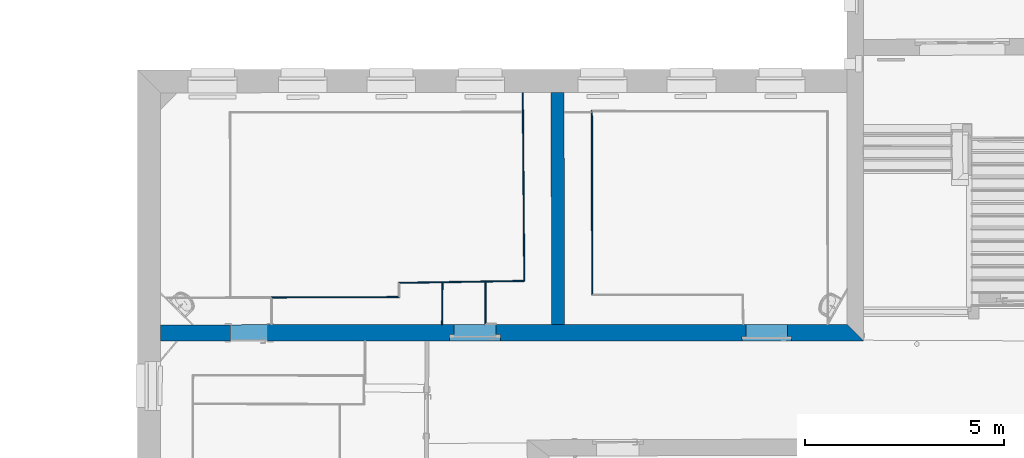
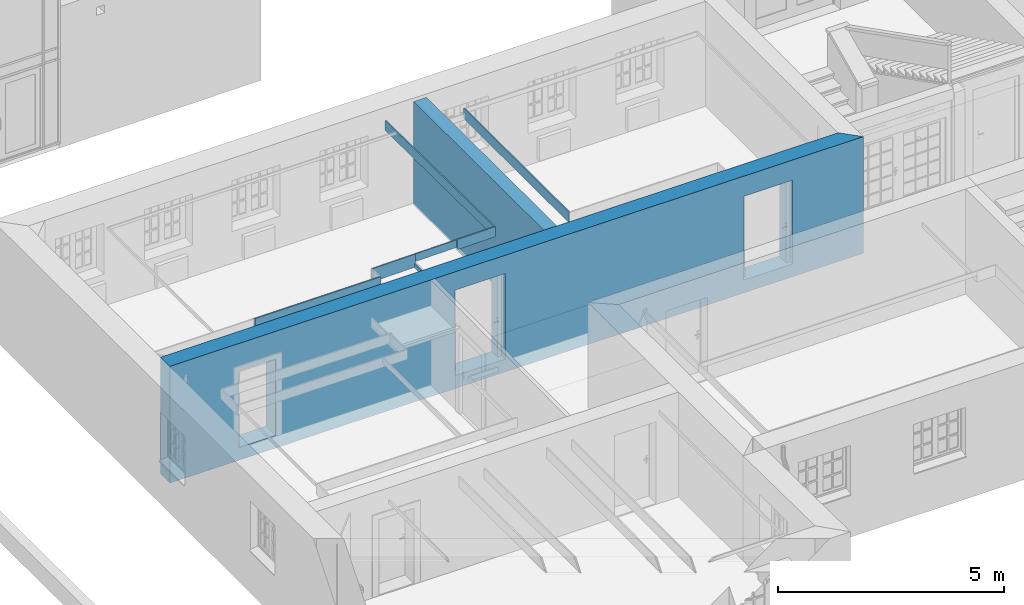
# One storey, part 24 of 196: 10 walls, 3 openings.
"""IFC2X3 building model written with IfcOpenShell, lengths in metres."""

from ifc_helpers import new_model, entity, si_unit, converted_unit, derived_unit, money_unit, direction, frame, origin_with_axes, origin_2d_with_axis, place, context, subcontext, project, spatial, polyline, rectangle, outline, extrude, material, layer, layer_set, layer_usage, type_object, element, save


model = new_model("IFC2X3")

# Units and contexts
model_context = context("Model", 3, precision=1e-05, world=origin_with_axes(), true_north=direction((0.0, 1.0)))
body_context = subcontext(model_context, "Body", "Model", "MODEL_VIEW")
ifc_project = project(units=[si_unit("LENGTHUNIT", "METRE"), si_unit("AREAUNIT", "SQUARE_METRE"), si_unit("VOLUMEUNIT", "CUBIC_METRE"), converted_unit("PLANEANGLEUNIT", "DEGREE", entity("IfcPlaneAngleMeasure", 0.0174532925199), si_unit("PLANEANGLEUNIT", "RADIAN"), dimensions=[0, 0, 0, 0, 0, 0, 0]), money_unit("EUR"), converted_unit("TIMEUNIT", "Year", entity("IfcTimeMeasure", 31556926.0), si_unit("TIMEUNIT", "SECOND"), dimensions=[0, 0, 1, 0, 0, 0, 0]), si_unit("MASSUNIT", "GRAM", prefix="KILO"), si_unit("THERMODYNAMICTEMPERATUREUNIT", "DEGREE_CELSIUS"), si_unit("LUMINOUSINTENSITYUNIT", "LUMEN"), si_unit("ENERGYUNIT", "JOULE", prefix="MEGA"), derived_unit("THERMALCONDUCTANCEUNIT", [(si_unit("POWERUNIT", "WATT"), 1), (si_unit("LENGTHUNIT", "METRE"), -1), (si_unit("THERMODYNAMICTEMPERATUREUNIT", "KELVIN"), -1)]), derived_unit("SPECIFICHEATCAPACITYUNIT", [(si_unit("ENERGYUNIT", "JOULE"), 1), (si_unit("MASSUNIT", "GRAM", prefix="KILO"), -1), (si_unit("THERMODYNAMICTEMPERATUREUNIT", "KELVIN"), -1)]), derived_unit("MASSDENSITYUNIT", [(si_unit("MASSUNIT", "GRAM", prefix="KILO"), 1), (si_unit("VOLUMEUNIT", "CUBIC_METRE"), -1)])], contexts=[model_context])

# Site, building, storey
site_placement = place(None, origin_with_axes())
site = spatial("IfcSite", under=ifc_project, at=site_placement, Name="Gelände", CompositionType="ELEMENT")
building_placement = place(site_placement, origin_with_axes())
building = spatial("IfcBuilding", under=site, at=building_placement, Name="Gebäude", CompositionType="ELEMENT")
storey_placement = place(building_placement, frame((0.0, 0.0, -3.0), z_axis=(0.0, 0.0, 1.0), x_axis=(1.0, 0.0, 0.0)))
storey = spatial("IfcBuildingStorey", under=building, at=storey_placement, Name="KELLERGESCHOSS", CompositionType="ELEMENT", Elevation=-3.0)

# Walls
ifc_material_1 = material(Name="43_Gipskarton")
ifc_layer_1 = layer(ifc_material_1, 0.03, ventilated="UNKNOWN")
ifc_layer_set_1 = layer_set([ifc_layer_1], Name="43_Gipskarton 0.03")
ifc_layer_usage_1 = layer_usage(ifc_layer_set_1, "AXIS2", "NEGATIVE", 0.03)
wall_type_1 = type_object("IfcWallType", Name="43_Gipskarton 30", PredefinedType="ELEMENTEDWALL")
wall_1_placement = place(storey_placement, frame((-21.5516281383, 20.3840060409, 2.09), z_axis=(0.0, 0.0, 1.0), x_axis=(-0.999995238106, -0.00308605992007, 0.0)))
element("IfcWallStandardCase", 1, at=wall_1_placement, inside=storey, type_object=wall_type_1, material=ifc_layer_usage_1, Name="Wand-039", ObjectType="ELEMENTEDWALL", context=body_context, shape_type="SweptSolid", body=[
    extrude(outline(polyline([(0.0, 0.0), (3.21258471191, 0.0), (3.18266783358, 0.03), (-0.0299204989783, 0.03), (0.0, 0.0)])), origin_with_axes(), (0.0, 0.0, 1.0), 0.35),
])
ifc_layer_usage_2 = layer_usage(ifc_layer_set_1, "AXIS2", "NEGATIVE", 0.0)
wall_2_placement = place(storey_placement, frame((-20.4277920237, 20.7284932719, 2.09), z_axis=(0.0, 0.0, 1.0), x_axis=(-0.0101911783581, -0.999948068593, 0.0)))
element("IfcWallStandardCase", 2, at=wall_2_placement, inside=storey, type_object=wall_type_1, material=ifc_layer_usage_2, Name="Wand-039", ObjectType="ELEMENTEDWALL", context=body_context, shape_type="SweptSolid", body=[
    extrude(outline(polyline([(0.0, -0.03), (1.05580748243, -0.03), (1.05549343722, 0.0), (0.0, 0.0), (0.0, -0.03)])), origin_with_axes(), (0.0, 0.0, 1.0), 0.1),
])
ifc_layer_usage_3 = layer_usage(ifc_layer_set_1, "AXIS2", "NEGATIVE", 0.03)
wall_3_placement = place(storey_placement, frame((-19.3744514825, 20.7751586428, 2.17), z_axis=(0.0, 0.0, 1.0), x_axis=(-0.000552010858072, -0.999999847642, 0.0)))
element("IfcWallStandardCase", 3, at=wall_3_placement, inside=storey, type_object=wall_type_1, material=ifc_layer_usage_3, Name="Wand-040", ObjectType="ELEMENTEDWALL", context=body_context, shape_type="SweptSolid", body=[
    extrude(outline(polyline([(0.0, 0.0), (1.10181013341, 0.0), (1.07178526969, 0.03), (0.0295129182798, 0.03), (0.0, 0.0)])), origin_with_axes(), (0.0, 0.0, 1.0), 0.02),
])
ifc_layer_usage_4 = layer_usage(ifc_layer_set_1, "AXIS2", "NEGATIVE", 0.0)
wall_4_placement = place(storey_placement, frame((-21.551782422, 20.7407178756, 2.09), z_axis=(0.0, 0.0, 1.0), x_axis=(0.999874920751, 0.0158159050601, 0.0)))
element("IfcWallStandardCase", 4, at=wall_4_placement, inside=storey, type_object=wall_type_1, material=ifc_layer_usage_4, Name="Wand-041", ObjectType="ELEMENTEDWALL", context=body_context, shape_type="SweptSolid", body=[
    extrude(outline(polyline([(0.0295419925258, -0.03), (1.12443688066, -0.03), (1.12443688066, 0.0), (0.0, 0.0), (0.0295419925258, -0.03)])), origin_with_axes(), (0.0, 0.0, 1.0), 0.35),
])
ifc_layer_usage_5 = layer_usage(ifc_layer_set_1, "AXIS2", "NEGATIVE", 0.0)
wall_5_placement = place(storey_placement, frame((-19.3744514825, 20.7751586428, 2.17), z_axis=(0.0, 0.0, 1.0), x_axis=(0.999874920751, 0.0158159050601, 0.0)))
element("IfcWallStandardCase", 5, at=wall_5_placement, inside=storey, type_object=wall_type_1, material=ifc_layer_usage_5, Name="Wand-041", ObjectType="ELEMENTEDWALL", context=body_context, shape_type="SweptSolid", body=[
    extrude(outline(polyline([(0.029512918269, -0.03), (1.00678493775, -0.03), (0.977016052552, 0.0), (0.0, 0.0), (0.029512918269, -0.03)])), origin_with_axes(), (0.0, 0.0, 1.0), 0.27),
])
ifc_layer_usage_6 = layer_usage(ifc_layer_set_1, "AXIS2", "NEGATIVE", 0.0)
wall_6_placement = place(storey_placement, frame((-20.427486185, 20.7585018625, 2.24), z_axis=(0.0, 0.0, 1.0), x_axis=(0.999874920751, 0.0158159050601, 0.0)))
element("IfcWallStandardCase", 6, at=wall_6_placement, inside=storey, type_object=wall_type_1, material=ifc_layer_usage_6, Name="Wand-041", ObjectType="ELEMENTEDWALL", context=body_context, shape_type="SweptSolid", body=[
    extrude(outline(polyline([(0.0, -0.03), (1.0531664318, -0.03), (1.0531664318, 0.0), (0.0, 0.0), (0.0, -0.03)])), origin_with_axes(), (0.0, 0.0, 1.0), 0.2),
])
ifc_layer_usage_7 = layer_usage(ifc_layer_set_1, "AXIS2", "NEGATIVE", 0.0)
wall_7_placement = place(storey_placement, frame((-16.664766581, 25.0380456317, 2.16), z_axis=(0.0, 0.0, 1.0), x_axis=(0.00165046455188, -0.999998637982, 0.0)))
element("IfcWallStandardCase", 7, at=wall_7_placement, inside=storey, type_object=wall_type_1, material=ifc_layer_usage_7, Name="Wand-042", ObjectType="ELEMENTEDWALL", context=body_context, shape_type="SweptSolid", body=[
    extrude(outline(polyline([(-0.0300732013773, -0.03), (4.62656737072, -0.03), (4.596602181, 0.0), (0.0, 0.0), (-0.0300732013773, -0.03)])), origin_with_axes(), (0.0, 0.0, 1.0), 0.28),
])
ifc_layer_usage_8 = layer_usage(ifc_layer_set_1, "AXIS2", "NEGATIVE", 0.0)
wall_8_placement = place(storey_placement, frame((-18.3975576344, 20.7906110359, 2.17), z_axis=(0.0, 0.0, 1.0), x_axis=(-0.00808289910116, 0.999967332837, 0.0)))
element("IfcWallStandardCase", 8, at=wall_8_placement, inside=storey, type_object=wall_type_1, material=ifc_layer_usage_8, Name="Wand-042", ObjectType="ELEMENTEDWALL", context=body_context, shape_type="SweptSolid", body=[
    extrude(outline(polyline([(-0.0297688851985, -0.03), (4.72812060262, -0.03), (4.72834306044, 0.0), (0.0, 0.0), (-0.0297688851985, -0.03)])), origin_with_axes(), (0.0, 0.0, 1.0), 0.27),
])
ifc_layer_2 = layer(ifc_material_1, 0.33, ventilated="UNKNOWN")
ifc_layer_set_2 = layer_set([ifc_layer_2], Name="43_Gipskarton 0.33")
ifc_layer_usage_9 = layer_usage(ifc_layer_set_2, "AXIS2", "NEGATIVE", 0.33)
wall_type_2 = type_object("IfcWallType", Name="43_Gipskarton 330", PredefinedType="ELEMENTEDWALL")
wall_9_placement = place(storey_placement, frame((-17.3638665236, 19.2639045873, -0.1), z_axis=(0.0, 0.0, 1.0), x_axis=(-0.00264909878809, 0.999996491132, 0.0)))
element("IfcWallStandardCase", 9, at=wall_9_placement, inside=storey, type_object=wall_type_2, material=ifc_layer_usage_9, Name="Wand-038", ObjectType="ELEMENTEDWALL", context=body_context, shape_type="SweptSolid", body=[
    extrude(outline(polyline([(0.410001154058, 0.0), (6.25562181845, 0.0), (6.25627562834, 0.33), (0.41078413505, 0.33), (0.410001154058, 0.0)])), origin_with_axes(), (0.0, 0.0, 1.0), 2.8),
])

# Wall, openings
ifc_material_2 = material(Name="05_ALLGEMEIN - TRAGENDE BAUTEILE")
ifc_layer_3 = layer(ifc_material_2, 0.41, ventilated="UNKNOWN")
ifc_layer_set_3 = layer_set([ifc_layer_3], Name="05_ALLGEMEIN - TRAGENDE BAUTEILE 0.41")
ifc_layer_usage_10 = layer_usage(ifc_layer_set_3, "AXIS2", "POSITIVE", -0.41)
wall_type_3 = type_object("IfcWallType", Name="05_ALLGEMEIN - TRAGENDE BAUTEILE 410", PredefinedType="ELEMENTEDWALL")
wall_10_placement = place(storey_placement, frame((-9.84148103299, 19.2659840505, -0.36), z_axis=(0.0, 0.0, 1.0), x_axis=(-0.999999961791, -0.000276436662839, 0.0)))
wall_10 = element("IfcWallStandardCase", 10, at=wall_10_placement, inside=storey, type_object=wall_type_3, material=ifc_layer_usage_10, Name="Wand-036", ObjectType="ELEMENTEDWALL", context=body_context, shape_type="SweptSolid", body=[
    extrude(outline(polyline([(0.409925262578, -0.41), (17.7008366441, -0.41), (17.7005669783, 0.0), (0.0, 0.0), (0.409925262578, -0.41)])), origin_with_axes(), (0.0, 0.0, 1.0), 3.15),
])
opening_1_placement = place(wall_10_placement, frame((2.43435271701, 0.0, 0.34905591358), z_axis=(0.0, 0.0, 1.0), x_axis=(1.0, 0.0, 0.0)))
element("IfcOpeningElement", 11, at=opening_1_placement, cuts=wall_10, Name="Tür-022", context=body_context, shape_type="SweptSolid", body=[
    extrude(rectangle(XDim=1.05378116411, YDim=2.159205, at=origin_2d_with_axis()), frame((0.0, -0.11, 1.0796025), z_axis=(0.0, 1.0, 0.0), x_axis=(1.0, 0.0, 0.0)), (0.0, 0.0, -1.0), 0.71),
    extrude(rectangle(XDim=1.25378116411, YDim=2.259205, at=origin_2d_with_axis()), frame((0.0, -0.05, 1.1296025), z_axis=(0.0, -1.0, 0.0), x_axis=(1.0, 0.0, 0.0)), (0.0, 0.0, 1.0), 0.06),
    extrude(rectangle(XDim=1.25378116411, YDim=2.259205, at=origin_2d_with_axis()), frame((0.0, -0.05, 1.1296025), z_axis=(0.0, -1.0, 0.0), x_axis=(1.0, 0.0, 0.0)), (0.0, 0.0, -1.0), 0.46),
])
opening_2_placement = place(wall_10_placement, frame((9.78109364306, 0.0, 0.347304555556), z_axis=(0.0, 0.0, 1.0), x_axis=(1.0, 0.0, 0.0)))
element("IfcOpeningElement", 12, at=opening_2_placement, cuts=wall_10, Name="Tür-022", context=body_context, shape_type="SweptSolid", body=[
    extrude(rectangle(XDim=1.06444475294, YDim=2.200287, at=origin_2d_with_axis()), frame((0.0, -0.16, 1.1001435), z_axis=(0.0, 1.0, 0.0), x_axis=(1.0, 0.0, 0.0)), (0.0, 0.0, -1.0), 0.66),
    extrude(rectangle(XDim=1.28444475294, YDim=2.310287, at=origin_2d_with_axis()), frame((0.0, -0.08, 1.1551435), z_axis=(0.0, -1.0, 0.0), x_axis=(1.0, 0.0, 0.0)), (0.0, 0.0, -1.0), 0.49),
    extrude(rectangle(XDim=1.28444475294, YDim=2.310287, at=origin_2d_with_axis()), frame((0.0, -0.08, 1.1551435), z_axis=(0.0, -1.0, 0.0), x_axis=(1.0, 0.0, 0.0)), (0.0, 0.0, 1.0), 0.08),
])
opening_3_placement = place(wall_10_placement, frame((15.4703837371, 0.0, 0.347765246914), z_axis=(0.0, 0.0, 1.0), x_axis=(1.0, 0.0, 0.0)))
element("IfcOpeningElement", 13, at=opening_3_placement, cuts=wall_10, Name="Tür-022", context=body_context, shape_type="SweptSolid", body=[
    extrude(rectangle(XDim=0.929114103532, YDim=2.063068, at=origin_2d_with_axis()), frame((0.0, -0.41, 1.031534), z_axis=(0.0, 1.0, 0.0), x_axis=(1.0, 0.0, 0.0)), (0.0, 0.0, 1.0), 1.23),
])

save(model, "model.ifc")
